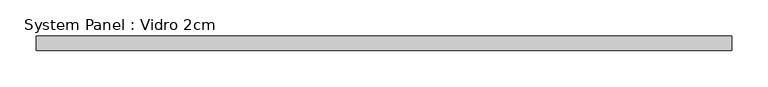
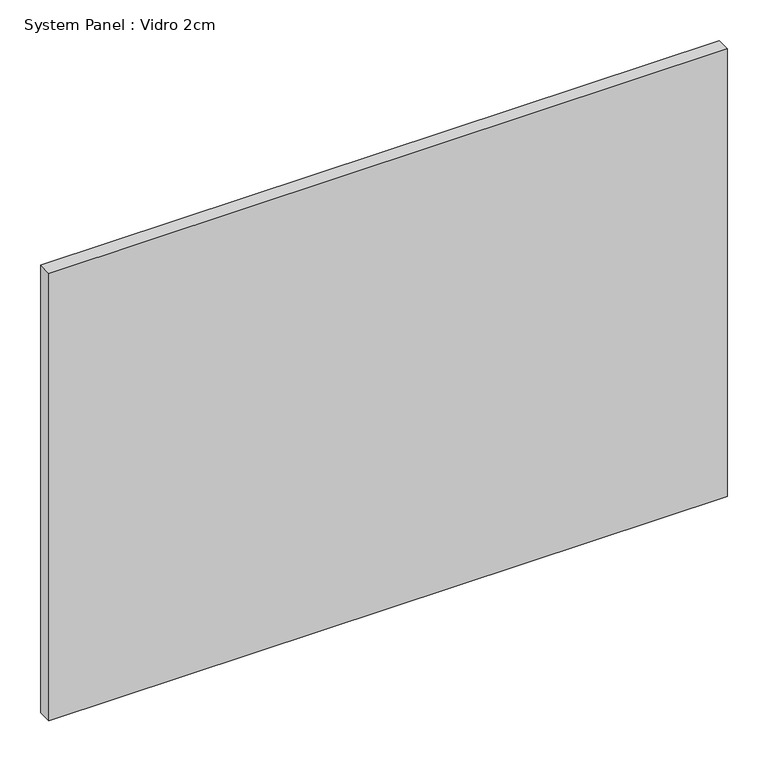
"""IFC4 building model written with IfcOpenShell, lengths in millimetres: plate geometry, System Panel : Vidro 2cm."""

from ifc_helpers import new_model, si_unit, origin, origin_with_axes, place, context, project, spatial, polyline, outline, extrude, source, transform, mapped, element, save


def system_panel_vidro_2cm_c7f1786d(model_context):
    return source(origin(), model_context, "Body", "SweptSolid", [
        extrude(outline(polyline([(480.0000002, 0.0), (-480.0000002, 0.0), (-480.0000002, 20.0), (480.0000002, 20.0), (480.0000002, 0.0)])), origin_with_axes(), (0.0, 0.0, 1.0), 670.0),
    ])


if __name__ == "__main__":
    model = new_model("IFC4")
    model_context = context("Model", 3, world=origin())
    ifc_project = project(units=[si_unit("LENGTHUNIT", "METRE", prefix="MILLI")], contexts=[model_context])
    site = spatial("IfcSite", under=ifc_project)
    building = spatial("IfcBuilding", under=site)
    placement = place(None, origin())
    system_panel_vidro_2cm_shape = system_panel_vidro_2cm_c7f1786d(model_context)
    element("IfcPlate", 1, ObjectType="System Panel : Vidro 2cm", at=placement, inside=building, context=model_context, shape_type="MappedRepresentation", body=[
        mapped(system_panel_vidro_2cm_shape, transform((0.0, 0.0, 0.0), x_axis=(1.0, 0.0, 0.0), y_axis=(0.0, 1.0, 0.0), z_axis=(0.0, 0.0, 1.0))),
    ])
    save(model, "model.ifc")
